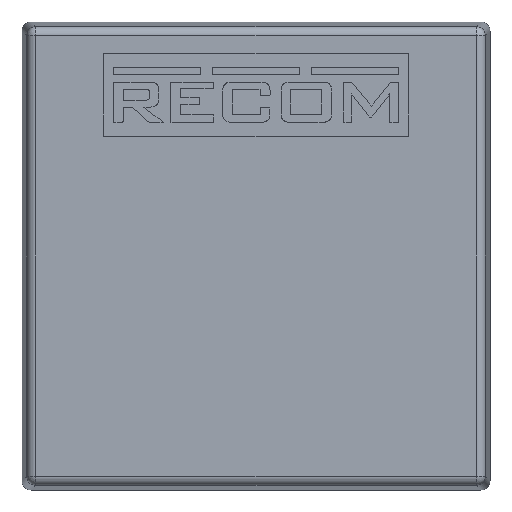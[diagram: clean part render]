
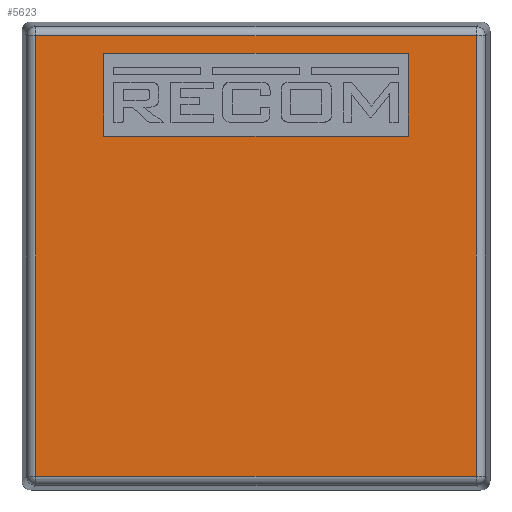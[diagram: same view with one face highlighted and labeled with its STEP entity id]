
A CAD part, front view. The second image highlights one B-rep face of the part: STEP entity #5623.
In plain terms, the highlighted planar face has unit normal (0, -1, 0).
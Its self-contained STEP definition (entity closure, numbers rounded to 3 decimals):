
#150 = VERTEX_POINT ( 'NONE', #4304 ) ;
#175 = FACE_BOUND ( 'NONE', #3683, .T. ) ;
#283 = VERTEX_POINT ( 'NONE', #4624 ) ;
#375 = LINE ( 'NONE', #9527, #5176 ) ;
#858 = VERTEX_POINT ( 'NONE', #10454 ) ;
#863 = LINE ( 'NONE', #5982, #8119 ) ;
#1186 = CARTESIAN_POINT ( 'NONE',  ( -11.946, -10.2, 11.946 ) ) ;
#1763 = EDGE_CURVE ( 'NONE', #4445, #858, #863, .T. ) ;
#2148 = VECTOR ( 'NONE', #4029, 1000. ) ;
#2218 = CARTESIAN_POINT ( 'NONE',  ( 11.946, -10.2, 11.946 ) ) ;
#2231 = CARTESIAN_POINT ( 'NONE',  ( 0., -10.2, 0. ) ) ;
#2304 = DIRECTION ( 'NONE',  ( 0., 0., -1. ) ) ;
#2407 = EDGE_CURVE ( 'NONE', #283, #9511, #7210, .T. ) ;
#2662 = ORIENTED_EDGE ( 'NONE', *, *, #7255, .T. ) ;
#2941 = DIRECTION ( 'NONE',  ( -1., 0., 0. ) ) ;
#3543 = DIRECTION ( 'NONE',  ( 0., 0., 1. ) ) ;
#3613 = VECTOR ( 'NONE', #2304, 1000. ) ;
#3683 = EDGE_LOOP ( 'NONE', ( #12442, #6584, #11504, #10505 ) ) ;
#3771 = LINE ( 'NONE', #7019, #2148 ) ;
#3856 = EDGE_CURVE ( 'NONE', #6392, #150, #8644, .T. ) ;
#3924 = DIRECTION ( 'NONE',  ( 0., 0., -1. ) ) ;
#4029 = DIRECTION ( 'NONE',  ( 0., 0., 1. ) ) ;
#4166 = CARTESIAN_POINT ( 'NONE',  ( 8.25, -10.2, 6.5 ) ) ;
#4304 = CARTESIAN_POINT ( 'NONE',  ( -8.25, -10.2, 11. ) ) ;
#4445 = VERTEX_POINT ( 'NONE', #1186 ) ;
#4479 = DIRECTION ( 'NONE',  ( 1., 0., 0. ) ) ;
#4624 = CARTESIAN_POINT ( 'NONE',  ( 8.25, -10.2, 11. ) ) ;
#5176 = VECTOR ( 'NONE', #4479, 1000. ) ;
#5623 = ADVANCED_FACE ( 'NONE', ( #175, #7268 ), #11322, .F. ) ;
#5663 = EDGE_CURVE ( 'NONE', #150, #283, #375, .T. ) ;
#5946 = CARTESIAN_POINT ( 'NONE',  ( -8.25, -10.2, 6.5 ) ) ;
#5982 = CARTESIAN_POINT ( 'NONE',  ( -11.946, -10.2, 11.946 ) ) ;
#6081 = ORIENTED_EDGE ( 'NONE', *, *, #7425, .T. ) ;
#6277 = DIRECTION ( 'NONE',  ( 0., 1., 0. ) ) ;
#6280 = CARTESIAN_POINT ( 'NONE',  ( 8.25, -10.2, 11. ) ) ;
#6325 = EDGE_CURVE ( 'NONE', #9511, #6392, #6883, .T. ) ;
#6392 = VERTEX_POINT ( 'NONE', #5946 ) ;
#6584 = ORIENTED_EDGE ( 'NONE', *, *, #2407, .T. ) ;
#6656 = CARTESIAN_POINT ( 'NONE',  ( -8.25, -10.2, 6.5 ) ) ;
#6883 = LINE ( 'NONE', #12996, #12636 ) ;
#6981 = VERTEX_POINT ( 'NONE', #12638 ) ;
#7019 = CARTESIAN_POINT ( 'NONE',  ( 11.946, -10.2, -11.946 ) ) ;
#7210 = LINE ( 'NONE', #6280, #3613 ) ;
#7255 = EDGE_CURVE ( 'NONE', #8006, #4445, #12094, .T. ) ;
#7268 = FACE_OUTER_BOUND ( 'NONE', #11303, .T. ) ;
#7425 = EDGE_CURVE ( 'NONE', #6981, #8006, #3771, .T. ) ;
#8006 = VERTEX_POINT ( 'NONE', #2218 ) ;
#8119 = VECTOR ( 'NONE', #3924, 1000. ) ;
#8132 = EDGE_CURVE ( 'NONE', #858, #6981, #12548, .T. ) ;
#8516 = ORIENTED_EDGE ( 'NONE', *, *, #1763, .T. ) ;
#8644 = LINE ( 'NONE', #6656, #9339 ) ;
#8678 = CARTESIAN_POINT ( 'NONE',  ( -11.946, -10.2, -11.946 ) ) ;
#8823 = VECTOR ( 'NONE', #11610, 1000. ) ;
#9339 = VECTOR ( 'NONE', #3543, 1000. ) ;
#9511 = VERTEX_POINT ( 'NONE', #4166 ) ;
#9527 = CARTESIAN_POINT ( 'NONE',  ( -8.25, -10.2, 11. ) ) ;
#9850 = AXIS2_PLACEMENT_3D ( 'NONE', #2231, #6277, #10337 ) ;
#9870 = DIRECTION ( 'NONE',  ( -1., 0., 0. ) ) ;
#10310 = CARTESIAN_POINT ( 'NONE',  ( 11.946, -10.2, 11.946 ) ) ;
#10337 = DIRECTION ( 'NONE',  ( 1., 0., 0. ) ) ;
#10454 = CARTESIAN_POINT ( 'NONE',  ( -11.946, -10.2, -11.946 ) ) ;
#10505 = ORIENTED_EDGE ( 'NONE', *, *, #3856, .T. ) ;
#11303 = EDGE_LOOP ( 'NONE', ( #8516, #12104, #6081, #2662 ) ) ;
#11322 = PLANE ( 'NONE',  #9850 ) ;
#11504 = ORIENTED_EDGE ( 'NONE', *, *, #6325, .T. ) ;
#11610 = DIRECTION ( 'NONE',  ( 1., 0., 0. ) ) ;
#11682 = VECTOR ( 'NONE', #2941, 1000. ) ;
#12094 = LINE ( 'NONE', #10310, #11682 ) ;
#12104 = ORIENTED_EDGE ( 'NONE', *, *, #8132, .T. ) ;
#12442 = ORIENTED_EDGE ( 'NONE', *, *, #5663, .T. ) ;
#12548 = LINE ( 'NONE', #8678, #8823 ) ;
#12636 = VECTOR ( 'NONE', #9870, 1000. ) ;
#12638 = CARTESIAN_POINT ( 'NONE',  ( 11.946, -10.2, -11.946 ) ) ;
#12996 = CARTESIAN_POINT ( 'NONE',  ( 8.25, -10.2, 6.5 ) ) ;
